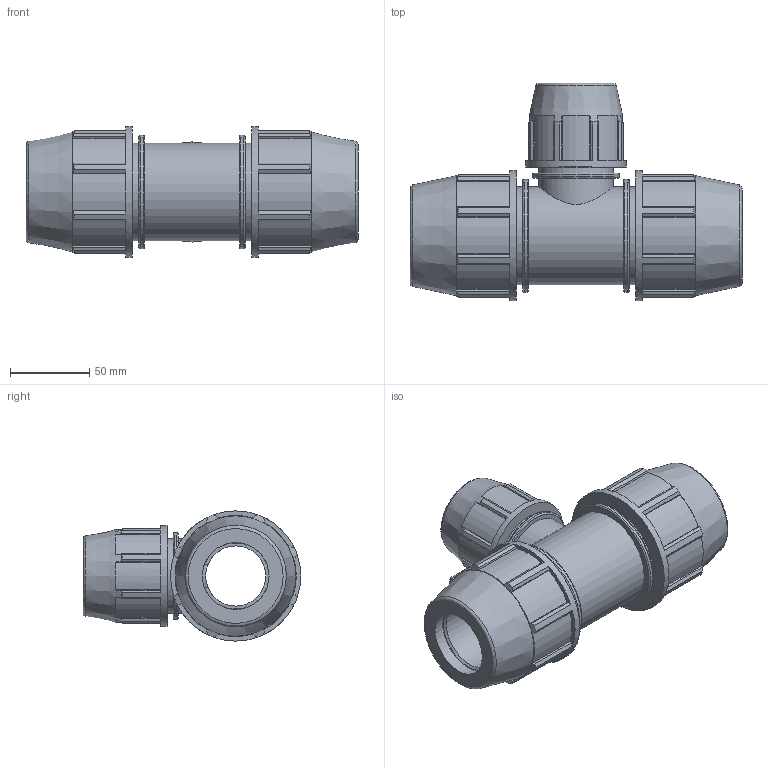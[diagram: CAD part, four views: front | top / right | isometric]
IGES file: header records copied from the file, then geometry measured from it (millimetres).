
Global section: file name: 0734M0013010.ipt; native system: Autodesk Inventor 2019; preprocessor: unknown; author: 12HКирилл; date: 20210826.124800; units: inch
Bounding box: 209.04 x 137.03 x 82.04 mm (x, y, z)
Volume: 629230.7 mm3; surface area: 112169.8 mm2
Topology: 1 solids, 1 shells, 208 faces, 597 edges, 403 vertices
Faces by surface type: plane 138, cylinder 37, revolution 20, cone 13
Full cylindrical faces by diameter (mm): 47.244 x2, 54.803 x1, 61.531 x3, 62.992 x1, 71.377 x2, 82.042 x2
